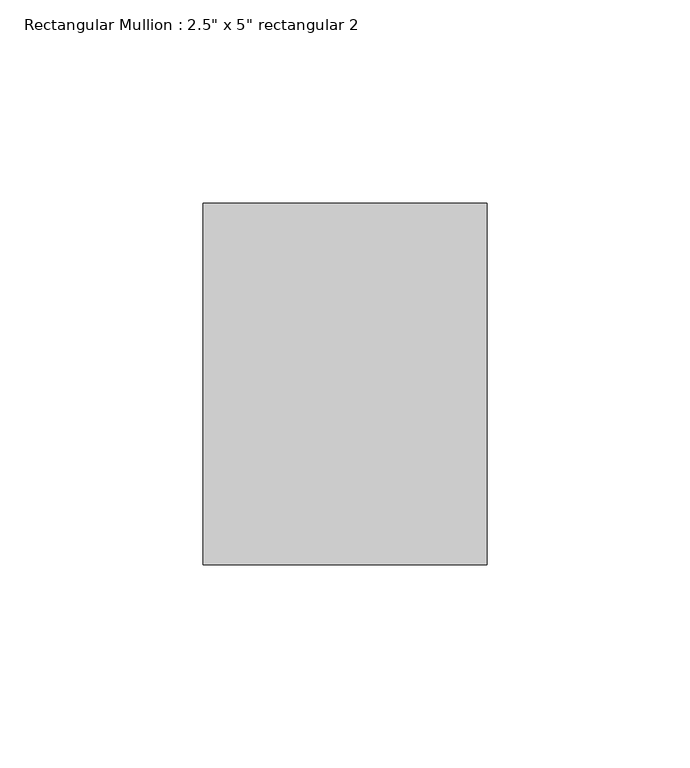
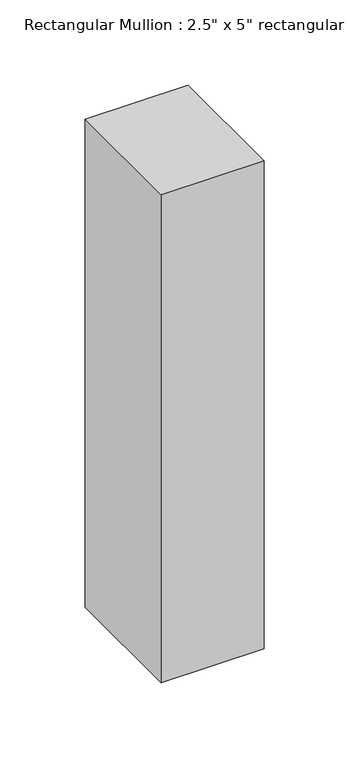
"""IFC4 building model written with IfcOpenShell, lengths in millimetres: member geometry."""

from ifc_helpers import new_model, si_unit, frame, origin, place, context, project, spatial, polyline, outline, extrude, source, transform, mapped, element, save


def member_03f23a6c(model_context):
    return source(origin(), model_context, "Body", "SweptSolid", [
        extrude(outline(polyline([(0.0, 44.45), (0.0, -44.45), (-69.85, -44.45), (-69.85, 44.45), (0.0, 44.45)])), frame((0.0, 0.0, -349.5527809), z_axis=(0.0, 0.0, 1.0), x_axis=(1.0, 0.0, 0.0)), (0.0, 0.0, 1.0), 349.5527809),
    ])


if __name__ == "__main__":
    model = new_model("IFC4")
    model_context = context("Model", 3, world=origin())
    ifc_project = project(units=[si_unit("LENGTHUNIT", "METRE", prefix="MILLI")], contexts=[model_context])
    site = spatial("IfcSite", under=ifc_project)
    building = spatial("IfcBuilding", under=site)
    placement = place(None, origin())
    member_shape = member_03f23a6c(model_context)
    element("IfcMember", 1, ObjectType="Rectangular Mullion : 2.5\" x 5\" rectangular 2", at=placement, inside=building, context=model_context, shape_type="MappedRepresentation", body=[
        mapped(member_shape, transform((0.0, 0.0, 0.0), x_axis=(1.0, 0.0, 0.0), y_axis=(0.0, 1.0, 0.0), z_axis=(0.0, 0.0, 1.0))),
    ])
    save(model, "model.ifc")
